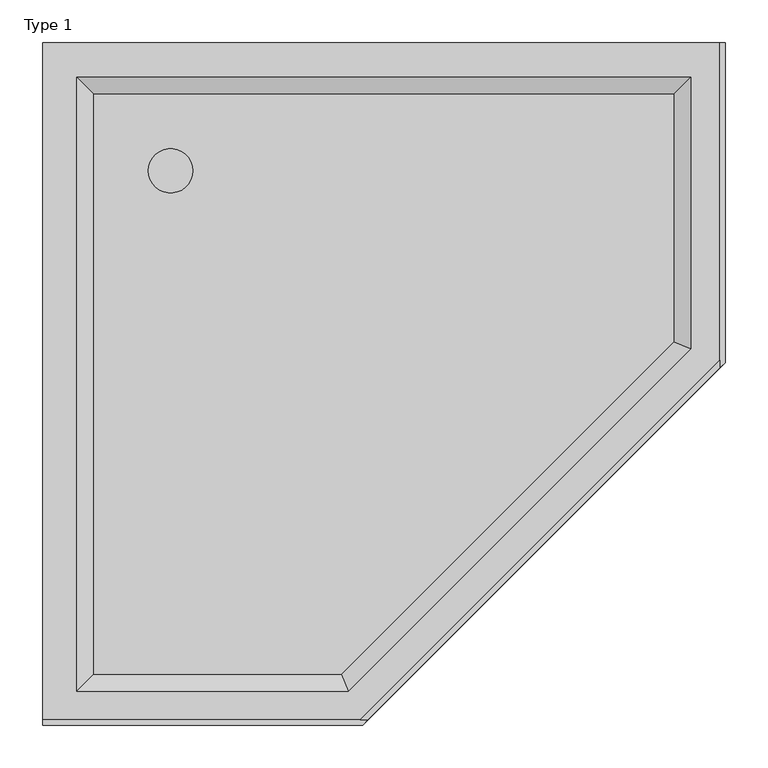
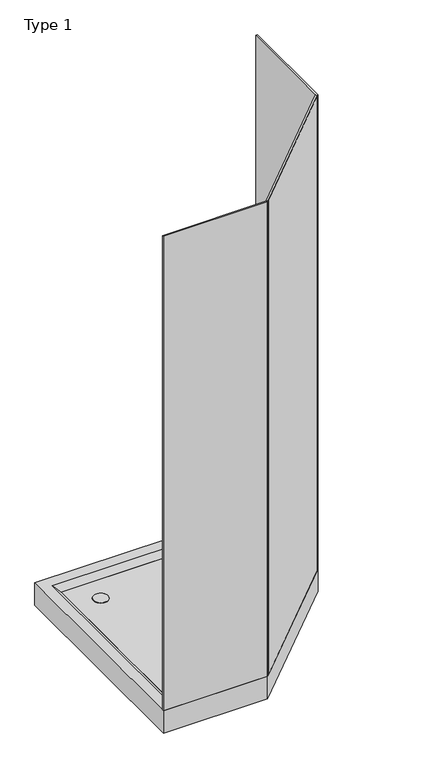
"""IFC4 building model written with IfcOpenShell, lengths in millimetres: sanitary terminal geometry, nbl_Shower_Pntngl-1.1 : Type 1."""

import ifcopenshell
import ifcopenshell.guid

model = None  # the IFC model being written
_history = None  # IfcOwnerHistory: only IFC2X3 demands one
_inside = {}  # id of a spatial element -> (the spatial element, [elements in it])
_under = {}  # id of a project, library or spatial element -> (it, [spatial elements below it])
_declared = {}  # id of a project -> (the project, [libraries it declares])
_typed = {}  # id of a type object -> (the type object, [elements of that type])
_made_of = {}  # id of a material, layer set ... -> (it, [elements and type objects made of it])


def new_model(schema):
    """Start an empty IFC model of exactly this schema.

    Asked for "IFC4X3", IfcOpenShell would pick the latest addendum, in which some entities
    have other attributes; the version numbers below select the first issue.
    IFC2X3 requires an IfcOwnerHistory on every rooted entity: one is made here for all.
    """
    global model, _history
    if schema == "IFC4X3":
        model = ifcopenshell.file(schema_version=(4, 3, 0, 0))
    else:
        model = ifcopenshell.file(schema=schema)
    _inside.clear()
    _under.clear()
    _declared.clear()
    _typed.clear()
    _made_of.clear()
    _history = None
    if model.schema == "IFC2X3":
        org = make("IfcOrganization", Name="unknown")
        user = make(
            "IfcPersonAndOrganization",
            ThePerson=make("IfcPerson", FamilyName="unknown"),
            TheOrganization=org,
        )
        app = make(
            "IfcApplication",
            ApplicationDeveloper=org,
            Version="unknown",
            ApplicationFullName="unknown",
            ApplicationIdentifier="unknown",
        )
        _history = make(
            "IfcOwnerHistory",
            OwningUser=user,
            OwningApplication=app,
            ChangeAction="ADDED",
            CreationDate=0,
        )
    return model


def make(cls, **values):
    """One entity of the class cls with the attributes given. An attribute that is None is left unset."""
    return model.create_entity(
        cls, **{name: value for name, value in values.items() if value is not None}
    )


def rooted(cls, **values):
    """An entity with a GlobalId (a new one), such as an element, a storey or a relation."""
    return make(cls, GlobalId=ifcopenshell.guid.new(), OwnerHistory=_history, **values)


def si_unit(unit_type, name, prefix=None):
    """IfcSIUnit, for example si_unit("LENGTHUNIT", "METRE", prefix="MILLI")."""
    return make("IfcSIUnit", UnitType=unit_type, Prefix=prefix, Name=name)


def assignment(units):
    """IfcUnitAssignment: the units of a project."""
    return None if units is None else make("IfcUnitAssignment", Units=units)


def point(xyz):
    """IfcCartesianPoint."""
    return None if xyz is None else make("IfcCartesianPoint", Coordinates=xyz)


def direction(xyz):
    """IfcDirection."""
    return None if xyz is None else make("IfcDirection", DirectionRatios=xyz)


def frame(location, z_axis=None, x_axis=None):
    """IfcAxis2Placement3D, a coordinate frame: its origin and axes. An axis left out is left unset."""
    return make(
        "IfcAxis2Placement3D",
        Location=point(location),
        Axis=direction(z_axis),
        RefDirection=direction(x_axis),
    )


def frame_2d(location, x_axis=None):
    """IfcAxis2Placement2D, a coordinate frame in the plane: its origin and x axis."""
    return make(
        "IfcAxis2Placement2D", Location=point(location), RefDirection=direction(x_axis)
    )


def origin():
    """The frame at (0, 0, 0) with its axes left unset."""
    return frame((0.0, 0.0, 0.0))


def place(relative_to, where):
    """IfcLocalPlacement: puts the frame where relative to a parent placement (None: the world)."""
    return make(
        "IfcLocalPlacement", PlacementRelTo=relative_to, RelativePlacement=where
    )


def context(
    kind, dimensions, precision=None, world=None, true_north=None, identifier=None
):
    """IfcGeometricRepresentationContext, for example the 3D "Model" context."""
    return make(
        "IfcGeometricRepresentationContext",
        ContextIdentifier=identifier,
        ContextType=kind,
        CoordinateSpaceDimension=dimensions,
        Precision=precision,
        WorldCoordinateSystem=world,
        TrueNorth=true_north,
    )


def project(units=None, contexts=None):
    """IfcProject with its units and contexts."""
    return rooted(
        "IfcProject",
        Name="project",
        RepresentationContexts=contexts,
        UnitsInContext=assignment(units),
    )


def spatial(cls, under=None, at=None, **own):
    """A site, building, storey or space (cls), placed at a placement, below another one or the project."""
    s = rooted(cls, ObjectPlacement=at, **own)
    if under is not None:
        _under.setdefault(under.id(), (under, []))[1].append(s)
    return s


def polyline(points):
    """IfcPolyline through the points."""
    return make("IfcPolyline", Points=[point(p) for p in points])


def circle_curve(where, radius):
    """IfcCircle in the frame where."""
    return make("IfcCircle", Position=where, Radius=radius)


def ellipse_curve(where, semi_axis1, semi_axis2):
    """IfcEllipse in the frame where."""
    return make(
        "IfcEllipse", Position=where, SemiAxis1=semi_axis1, SemiAxis2=semi_axis2
    )


def trimmed(basis, trim1, trim2, sense, master):
    """IfcTrimmedCurve: the piece of a basis curve between two trims."""
    return make(
        "IfcTrimmedCurve",
        BasisCurve=basis,
        Trim1=trim1,
        Trim2=trim2,
        SenseAgreement=sense,
        MasterRepresentation=master,
    )


def segment(curve, same_sense, transition):
    """IfcCompositeCurveSegment."""
    return make(
        "IfcCompositeCurveSegment",
        Transition=transition,
        SameSense=same_sense,
        ParentCurve=curve,
    )


def composite_curve(segments, self_intersect=None):
    """IfcCompositeCurve: segments joined end to end."""
    return make("IfcCompositeCurve", Segments=segments, SelfIntersect=self_intersect)


def outline(outer, holes=None, kind="AREA"):
    """IfcArbitraryClosedProfileDef: a profile drawn as a closed curve; with holes, ...WithVoids."""
    if holes is None:
        return make("IfcArbitraryClosedProfileDef", ProfileType=kind, OuterCurve=outer)
    return make(
        "IfcArbitraryProfileDefWithVoids",
        ProfileType=kind,
        OuterCurve=outer,
        InnerCurves=holes,
    )


def extrude(swept, where, along, depth):
    """IfcExtrudedAreaSolid: the profile swept, set in the frame where, extruded along a direction by depth."""
    return make(
        "IfcExtrudedAreaSolid",
        SweptArea=swept,
        Position=where,
        ExtrudedDirection=direction(along),
        Depth=depth,
    )


def shape(context_of_items, identifier, shape_type, items):
    """IfcShapeRepresentation: the items that make up one representation, for example the "Body"."""
    return make(
        "IfcShapeRepresentation",
        ContextOfItems=context_of_items,
        RepresentationIdentifier=identifier,
        RepresentationType=shape_type,
        Items=items,
    )


def source(mapping_origin, context_of_items, identifier, shape_type, items):
    """IfcRepresentationMap: a shape defined once, which mapped items show again and again."""
    return make(
        "IfcRepresentationMap",
        MappingOrigin=mapping_origin,
        MappedRepresentation=shape(context_of_items, identifier, shape_type, items),
    )


def transform(
    local_origin,
    x_axis=None,
    y_axis=None,
    z_axis=None,
    scale=None,
    scale2=None,
    scale3=None,
    uniform=True,
):
    """IfcCartesianTransformationOperator3D, or its non-uniform kind. x_axis, y_axis, z_axis: its Axis1, 2, 3."""
    if uniform:
        return make(
            "IfcCartesianTransformationOperator3D",
            Axis1=direction(x_axis),
            Axis2=direction(y_axis),
            LocalOrigin=point(local_origin),
            Scale=scale,
            Axis3=direction(z_axis),
        )
    return make(
        "IfcCartesianTransformationOperator3DnonUniform",
        Axis1=direction(x_axis),
        Axis2=direction(y_axis),
        LocalOrigin=point(local_origin),
        Scale=scale,
        Axis3=direction(z_axis),
        Scale2=scale2,
        Scale3=scale3,
    )


def mapped(mapping_source, mapping_target):
    """IfcMappedItem: shows the shape of a source again, moved by a transform."""
    return make(
        "IfcMappedItem", MappingSource=mapping_source, MappingTarget=mapping_target
    )


def made_of(thing, what):
    """Note that an element or type object is made of a material, layer set ...; save() writes the relation."""
    if what is not None:
        _made_of.setdefault(what.id(), (what, []))[1].append(thing)
    return thing


def element(
    cls,
    number,
    at=None,
    inside=None,
    cuts=None,
    type_object=None,
    material=None,
    context=None,
    identifier="Body",
    shape_type=None,
    held_by="IfcProductDefinitionShape",
    body=None,
    shapes=None,
    **own,
):
    """One element of the class cls, such as IfcWall. Its Tag is "e" and its number.

    at: its placement. inside: the storey or other place that contains it. cuts: it is an
    opening in that element (IfcRelVoidsElement). A single representation is given by context,
    identifier, shape_type and body (its items); several are given by shapes. held_by: the class
    of the entity that holds the representations. save() writes the other relations.
    """
    e = rooted(cls, Tag="e%d" % number, ObjectPlacement=at, **own)
    if body is not None:
        shapes = [shape(context, identifier, shape_type, body)]
    if shapes is not None:
        e.Representation = make(held_by, Representations=shapes)
    if inside is not None:
        _inside.setdefault(inside.id(), (inside, []))[1].append(e)
    if cuts is not None:
        rooted(
            "IfcRelVoidsElement", RelatingBuildingElement=cuts, RelatedOpeningElement=e
        )
    if type_object is not None:
        _typed.setdefault(type_object.id(), (type_object, []))[1].append(e)
    return made_of(e, material)


def aggregate(whole, parts):
    """IfcRelAggregates: a whole, such as a stair, and the parts it consists of."""
    return rooted("IfcRelAggregates", RelatingObject=whole, RelatedObjects=parts)


def save(model, path):
    """Write the relations noted so far, then the file.

    IfcRelAggregates (storeys below a building ...), IfcRelContainedInSpatialStructure (elements
    in a storey), IfcRelDefinesByType, IfcRelAssociatesMaterial and IfcRelDeclares: one each for
    every whole, place, type object, material and project.
    """
    for whole, parts in _under.values():
        aggregate(whole, parts)
    for where, things in _inside.values():
        rooted(
            "IfcRelContainedInSpatialStructure",
            RelatedElements=things,
            RelatingStructure=where,
        )
    for kind, things in _typed.values():
        rooted("IfcRelDefinesByType", RelatedObjects=things, RelatingType=kind)
    for what, things in _made_of.values():
        rooted("IfcRelAssociatesMaterial", RelatedObjects=things, RelatingMaterial=what)
    for by, libraries in _declared.values():
        rooted("IfcRelDeclares", RelatingContext=by, RelatedDefinitions=libraries)
    model.write(path)


def plane_surface(at):
    """IfcPlane: the flat surface through the origin of the frame at, square to its z axis."""
    return make("IfcPlane", Position=at)


def cylinder_surface(at, radius):
    """IfcCylindricalSurface: all points at the distance radius from the z axis of the frame at."""
    return make("IfcCylindricalSurface", Position=at, Radius=radius)


def revolved_surface(curve, axis_point, axis_direction):
    """IfcSurfaceOfRevolution: the curve turned about the line through axis_point along axis_direction."""
    return make(
        "IfcSurfaceOfRevolution",
        SweptCurve=make("IfcArbitraryOpenProfileDef", ProfileType="CURVE", Curve=curve),
        AxisPosition=make("IfcAxis1Placement", Location=point(axis_point), Axis=direction(axis_direction)),
    )


def advanced_brep(points, edges, surfaces, faces):
    """IfcAdvancedBrep: a solid bounded by faces that lie on surfaces and meet in shared edges.

    An edge is (start, end): straight between two places in points (the first is 0);
    or (start, end, curve); or (start, end, curve, False) where it runs against its curve.
    A face is (place in surfaces, loops), or (place, loops, False) where it looks against
    its surface's normal. A loop lists edges by number (the first is 1), with a minus sign
    where the edge is run from its end to its start. The first loop is the outer one.
    """
    corners = [point(p) for p in points]
    vertices = [make("IfcVertexPoint", VertexGeometry=c) for c in corners]
    made = []
    for start, end, *more in edges:
        made.append(
            make(
                "IfcEdgeCurve",
                EdgeStart=vertices[start],
                EdgeEnd=vertices[end],
                EdgeGeometry=more[0] if more else make("IfcPolyline", Points=[corners[start], corners[end]]),
                SameSense=more[1] if len(more) > 1 else True,
            )
        )
    hull = []
    for where, loops, *sense in faces:
        bounds = []
        for j, loop in enumerate(loops):
            ring = [make("IfcOrientedEdge", EdgeElement=made[abs(k) - 1], Orientation=k > 0) for k in loop]
            bounds.append(
                make(
                    "IfcFaceOuterBound" if j == 0 else "IfcFaceBound",
                    Bound=make("IfcEdgeLoop", EdgeList=ring),
                    Orientation=True,
                )
            )
        hull.append(make("IfcAdvancedFace", Bounds=bounds, FaceSurface=surfaces[where], SameSense=sense[0] if sense else True))
    return make("IfcAdvancedBrep", Outer=make("IfcClosedShell", CfsFaces=hull))


def type_1_79898fc5(model_context):
    return source(origin(), model_context, "Body", "SolidModel", [
        extrude(outline(composite_curve([segment(trimmed(circle_curve(frame_2d((-250.0, 250.0)), 26.0), [point((-224.0, 250.0))], [point((-276.0, 250.0))], False, "CARTESIAN"), True, "CONTINUOUS"), segment(trimmed(circle_curve(frame_2d((-250.0, 250.0)), 26.0), [point((-276.0, 250.0))], [point((-224.0, 250.0))], False, "CARTESIAN"), True, "CONTINUOUS")], self_intersect=False)), frame((0.0, 0.0, 64.0), z_axis=(0.0, 0.0, 1.0), x_axis=(1.0, 0.0, 0.0)), (0.0, 0.0, 1.0), 2.0),
        extrude(outline(polyline([(394.0, 19.0), (-19.0, -394.0), (-27.4852814, -394.0), (394.0, 27.4852814), (394.0, 19.0)])), frame((0.0, 0.0, 85.0), z_axis=(0.0, 0.0, 1.0), x_axis=(1.0, 0.0, 0.0)), (0.0, 0.0, 1.0), 1800.0),
        extrude(outline(polyline([(-340.0, 340.0), (340.0, 340.0), (340.0, 49.8528137), (-49.8528137, -340.0), (-340.0, -340.0), (-340.0, 340.0)]), holes=[composite_curve([segment(trimmed(circle_curve(frame_2d((-250.0, 250.0)), 26.0), [point((-224.0, 250.0))], [point((-276.0, 250.0))], True, "CARTESIAN"), True, "CONTINUOUS"), segment(trimmed(circle_curve(frame_2d((-250.0, 250.0)), 26.0), [point((-276.0, 250.0))], [point((-224.0, 250.0))], True, "CARTESIAN"), True, "CONTINUOUS")], self_intersect=False)]), frame((0.0, 0.0, 55.0), z_axis=(0.0, 0.0, 1.0), x_axis=(1.0, 0.0, 0.0)), (0.0, 0.0, 1.0), 10.0),
        extrude(outline(polyline([(400.0, 25.0), (394.0, 19.0), (394.0, 400.0), (400.0, 400.0), (400.0, 25.0)])), frame((0.0, 0.0, 85.0), z_axis=(0.0, 0.0, 1.0), x_axis=(1.0, 0.0, 0.0)), (0.0, 0.0, 1.0), 1800.0),
        extrude(outline(polyline([(-19.0, -394.0), (-25.0, -400.0), (-400.0, -400.0), (-400.0, -394.0), (-19.0, -394.0)])), frame((0.0, 0.0, 85.0), z_axis=(0.0, 0.0, 1.0), x_axis=(1.0, 0.0, 0.0)), (0.0, 0.0, 1.0), 1800.0),
        advanced_brep(
        [(400.0, 400.0, 0.0), (400.0, 400.0, 85.0), (400.0, 25.0, 85.0), (400.0, 25.0, 0.0), (340.0, 340.0, 65.0), (340.0, 340.0, 0.0), (340.0, 49.8528137, 0.0), (340.0, 49.8528137, 65.0), (-25.0, -400.0, 0.0), (-25.0, -400.0, 85.0), (-400.0, -400.0, 85.0), (-400.0, -400.0, 0.0), (-49.8528137, -340.0, 65.0), (-49.8528137, -340.0, 0.0), (-340.0, -340.0, 0.0), (-340.0, -340.0, 65.0), (-400.0, 400.0, 85.0), (-400.0, 400.0, 0.0), (-340.0, 340.0, 0.0), (-340.0, 340.0, 65.0), (390.0, 390.0, 73.0371147), (390.0, 390.0, 0.0), (390.0, 29.1421356, 0.0), (390.0, 29.1421356, 73.0371147), (350.0, 350.0, 0.0), (350.0, 350.0, 58.1954665), (350.0, 45.7106781, 58.1954665), (350.0, 45.7106781, 0.0), (-29.1421356, -390.0, 73.0371147), (-29.1421356, -390.0, 0.0), (-390.0, -390.0, 0.0), (-390.0, -390.0, 73.0371147), (-45.7106781, -350.0, 0.0), (-45.7106781, -350.0, 58.1954665), (-350.0, -350.0, 58.1954665), (-350.0, -350.0, 0.0), (-390.0, 390.0, 0.0), (-390.0, 390.0, 73.0371147), (-350.0, 350.0, 58.1954665), (-350.0, 350.0, 0.0), (365.0904931, 365.0904931, 73.0371147), (365.0904931, 39.4599912, 73.0371147), (360.0, 360.0, 85.0), (360.0, 41.5685425, 85.0), (-39.4599912, -365.0904931, 73.0371147), (-365.0904931, -365.0904931, 73.0371147), (-41.5685425, -360.0, 85.0), (-360.0, -360.0, 85.0), (-365.0904931, 365.0904931, 73.0371147), (-360.0, 360.0, 85.0)],
        [
            (0, 1),
            (1, 2),
            (2, 3),
            (3, 0),
            (4, 5),
            (5, 6),
            (6, 7),
            (7, 4),
            (8, 9),
            (9, 10),
            (10, 11),
            (11, 8),
            (12, 13),
            (13, 14),
            (14, 15),
            (15, 12),
            (10, 16),
            (16, 17),
            (17, 11),
            (14, 18),
            (18, 19),
            (19, 15),
            (16, 1),
            (0, 17),
            (18, 5),
            (4, 19),
            (20, 21),
            (21, 22),
            (22, 23),
            (23, 20),
            (24, 25),
            (25, 26),
            (26, 27),
            (27, 24),
            (28, 29),
            (29, 30),
            (30, 31),
            (31, 28),
            (32, 33),
            (33, 34),
            (34, 35),
            (35, 32),
            (30, 36),
            (36, 37),
            (37, 31),
            (34, 38),
            (38, 39),
            (39, 35),
            (36, 21),
            (20, 37),
            (38, 25),
            (24, 39),
            (25, 40, ellipse_curve(frame((247.8953326, 247.8953326, 177.1046674), z_axis=(0.7071067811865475, -0.7071067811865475, 0.0), x_axis=(0.7071067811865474, 0.7071067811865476, 0.0)), 221.6518042, 156.7314938)),
            (40, 41),
            (41, 26, ellipse_curve(frame((247.8953326, 88.0038161, 177.1046674), z_axis=(0.38268343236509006, 0.9238795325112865, 0.0), x_axis=(-0.9238795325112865, 0.3826834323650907, 0.0)), 169.6449464, 156.7314938)),
            (42, 4, ellipse_curve(frame((247.8953326, 247.8953326, 177.1046674), z_axis=(-0.7071067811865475, 0.7071067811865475, 0.0), x_axis=(-0.7071067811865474, -0.7071067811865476, 0.0)), 205.1863845, 145.0886839)),
            (7, 43, ellipse_curve(frame((247.8953326, 88.0038161, 177.1046674), z_axis=(-0.38268343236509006, -0.9238795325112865, 0.0), x_axis=(0.9238795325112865, -0.3826834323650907, 0.0)), 157.0428598, 145.0886839)),
            (43, 42),
            (33, 44, ellipse_curve(frame((-88.0038161, -247.8953326, 177.1046674), z_axis=(-0.9238795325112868, -0.3826834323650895, 0.0), x_axis=(0.38268343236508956, -0.9238795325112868, 0.0)), 169.6449464, 156.7314938)),
            (44, 45),
            (45, 34, ellipse_curve(frame((-247.8953326, -247.8953326, 177.1046674), z_axis=(0.7071067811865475, -0.7071067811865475, 0.0), x_axis=(0.7071067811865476, 0.7071067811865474, 0.0)), 221.6518042, 156.7314938)),
            (46, 12, ellipse_curve(frame((-88.0038161, -247.8953326, 177.1046674), z_axis=(0.9238795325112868, 0.3826834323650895, 0.0), x_axis=(-0.38268343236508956, 0.9238795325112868, 0.0)), 157.0428598, 145.0886839)),
            (15, 47, ellipse_curve(frame((-247.8953326, -247.8953326, 177.1046674), z_axis=(-0.7071067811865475, 0.7071067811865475, 0.0), x_axis=(-0.7071067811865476, -0.7071067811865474, 0.0)), 205.1863845, 145.0886839)),
            (47, 46),
            (45, 48),
            (48, 38, ellipse_curve(frame((-247.8953326, 247.8953326, 177.1046674), z_axis=(-0.7071067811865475, -0.7071067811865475, 0.0), x_axis=(0.7071067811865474, -0.7071067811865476, 0.0)), 221.6518042, 156.7314938)),
            (19, 49, ellipse_curve(frame((-247.8953326, 247.8953326, 177.1046674), z_axis=(0.7071067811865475, 0.7071067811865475, 0.0), x_axis=(-0.7071067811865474, 0.7071067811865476, 0.0)), 205.1863845, 145.0886839)),
            (49, 47),
            (48, 40),
            (42, 49),
            (2, 9),
            (8, 3),
            (29, 22),
            (28, 23),
            (44, 41),
            (33, 26),
            (32, 27),
            (13, 6),
            (12, 7),
            (46, 43),
        ],
        [
            plane_surface(frame((400.0, 400.0, 85.0), z_axis=(1.0, 0.0, 0.0), x_axis=(0.0, -1.0, 0.0))),
            plane_surface(frame((340.0, 340.0, 0.0), z_axis=(-1.0, 0.0, 0.0), x_axis=(0.0, -1.0, 0.0))),
            plane_surface(frame((-25.0, -400.0, 85.0), z_axis=(0.0, -1.0, 0.0), x_axis=(-1.0, 0.0, 0.0))),
            plane_surface(frame((-49.8528137, -340.0, 0.0), z_axis=(0.0, 1.0, 0.0), x_axis=(-1.0, 0.0, 0.0))),
            plane_surface(frame((-400.0, -400.0, 85.0), z_axis=(-1.0, 0.0, 0.0), x_axis=(0.0, 1.0, 0.0))),
            plane_surface(frame((-340.0, -340.0, 0.0), z_axis=(1.0, 0.0, 0.0), x_axis=(0.0, 1.0, 0.0))),
            plane_surface(frame((-400.0, 400.0, 85.0), z_axis=(0.0, 1.0, 0.0), x_axis=(1.0, 0.0, 0.0))),
            plane_surface(frame((-340.0, 340.0, 0.0), z_axis=(0.0, -1.0, 0.0), x_axis=(1.0, 0.0, 0.0))),
            plane_surface(frame((390.0, 390.0, 0.0), z_axis=(-1.0, 0.0, 0.0), x_axis=(0.0, -1.0, 0.0))),
            plane_surface(frame((350.0, 350.0, 58.1954665), z_axis=(1.0, 0.0, 0.0), x_axis=(0.0, -1.0, 0.0))),
            plane_surface(frame((-29.1421356, -390.0, 0.0), z_axis=(0.0, 1.0, 0.0), x_axis=(-1.0, 0.0, 0.0))),
            plane_surface(frame((-45.7106781, -350.0, 58.1954665), z_axis=(0.0, -1.0, 0.0), x_axis=(-1.0, 0.0, 0.0))),
            plane_surface(frame((-390.0, -390.0, 0.0), z_axis=(1.0, 0.0, 0.0), x_axis=(0.0, 1.0, 0.0))),
            plane_surface(frame((-350.0, -350.0, 58.1954665), z_axis=(-1.0, 0.0, 0.0), x_axis=(0.0, 1.0, 0.0))),
            plane_surface(frame((-390.0, 390.0, 0.0), z_axis=(0.0, -1.0, 0.0), x_axis=(1.0, 0.0, 0.0))),
            plane_surface(frame((-350.0, 350.0, 58.1954665), z_axis=(0.0, 1.0, 0.0), x_axis=(1.0, 0.0, 0.0))),
            cylinder_surface(frame((247.8953326, 400.0, 177.1046674), z_axis=(0.0, 1.0, 0.0), x_axis=(1.0, 0.0, 0.0)), 156.7314938),
            revolved_surface(polyline([(392.9840165, 27.90611548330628, 177.1046674), (392.9840165, 392.98401648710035, 177.1046674)]), (247.8953326, 400.0, 177.1046674), (0.0, -1.0, 0.0)),
            cylinder_surface(frame((-25.0, -247.8953326, 177.1046674), z_axis=(1.0, 0.0, 0.0), x_axis=(0.0, -1.0, 0.0)), 156.7314938),
            revolved_surface(polyline([(-392.98401648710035, -392.9840165, 177.1046674), (-27.90611548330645, -392.9840165, 177.1046674)]), (-25.0, -247.8953326, 177.1046674), (-1.0, 0.0, 0.0)),
            cylinder_surface(frame((-247.8953326, -400.0, 177.1046674), z_axis=(0.0, -1.0, 0.0), x_axis=(-1.0, 0.0, 0.0)), 156.7314938),
            revolved_surface(polyline([(-392.9840165, 392.98401648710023, 177.1046674), (-392.9840165, -392.98401648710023, 177.1046674)]), (-247.8953326, -400.0, 177.1046674), (0.0, 1.0, 0.0)),
            cylinder_surface(frame((-400.0, 247.8953326, 177.1046674), z_axis=(-1.0, 0.0, 0.0), x_axis=(0.0, 1.0, 0.0)), 156.7314938),
            revolved_surface(polyline([(392.98401648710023, 392.9840165, 177.1046674), (-392.98401648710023, 392.9840165, 177.1046674)]), (-400.0, 247.8953326, 177.1046674), (1.0, 0.0, 0.0)),
            plane_surface(frame((400.0, 25.0, 85.0), z_axis=(0.7071067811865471, -0.707106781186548, 0.0), x_axis=(-0.707106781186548, -0.7071067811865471, 0.0))),
            plane_surface(frame((400.0, 25.0, 0.0), z_axis=(0.0, 0.0, -1.0), x_axis=(-0.707106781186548, -0.7071067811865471, 0.0))),
            plane_surface(frame((390.0, 29.1421356, 0.0), z_axis=(-0.7071067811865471, 0.707106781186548, 0.0), x_axis=(-0.707106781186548, -0.7071067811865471, 0.0))),
            plane_surface(frame((390.0, 29.1421356, 73.0371147), z_axis=(0.0, 0.0, -1.0), x_axis=(-0.707106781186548, -0.7071067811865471, 0.0))),
            cylinder_surface(frame((292.4457583, 132.5542417, 177.1046674), z_axis=(0.707106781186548, 0.7071067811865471, 0.0), x_axis=(0.7071067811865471, -0.707106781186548, 0.0)), 156.7314938),
            plane_surface(frame((350.0, 45.7106781, 58.1954665), z_axis=(0.7071067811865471, -0.707106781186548, 0.0), x_axis=(-0.707106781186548, -0.7071067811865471, 0.0))),
            plane_surface(frame((350.0, 45.7106781, 0.0), z_axis=(0.0, 0.0, -1.0), x_axis=(-0.707106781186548, -0.7071067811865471, 0.0))),
            plane_surface(frame((340.0, 49.8528137, 0.0), z_axis=(-0.707106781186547, 0.707106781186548, 0.0), x_axis=(-0.707106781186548, -0.707106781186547, 0.0))),
            revolved_surface(polyline([(-27.906115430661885, -392.98401654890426, 177.1046674), (392.9840165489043, 27.9061154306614, 177.1046674)]), (292.4457583, 132.5542417, 177.1046674), (-0.707106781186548, -0.7071067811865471, 0.0)),
            plane_surface(frame((360.0, 41.5685425, 85.0), z_axis=(0.0, 0.0, 1.0), x_axis=(-0.7071067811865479, -0.7071067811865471, 0.0))),
        ],
        [
            (0, [[1, 2, 3, 4]]),
            (1, [[5, 6, 7, 8]]),
            (2, [[9, 10, 11, 12]]),
            (3, [[13, 14, 15, 16]]),
            (4, [[-11, 17, 18, 19]]),
            (5, [[-15, 20, 21, 22]]),
            (6, [[-18, 23, -1, 24]]),
            (7, [[-21, 25, -5, 26]]),
            (8, [[27, 28, 29, 30]]),
            (9, [[31, 32, 33, 34]]),
            (10, [[35, 36, 37, 38]]),
            (11, [[39, 40, 41, 42]]),
            (12, [[-37, 43, 44, 45]]),
            (13, [[-41, 46, 47, 48]]),
            (14, [[-44, 49, -27, 50]]),
            (15, [[-47, 51, -31, 52]]),
            (16, [[53, 54, 55, -32]]),
            (17, [[56, -8, 57, 58]]),
            (18, [[59, 60, 61, -40]]),
            (19, [[62, -16, 63, 64]]),
            (20, [[-61, 65, 66, -46]]),
            (21, [[-63, -22, 67, 68]]),
            (22, [[-66, 69, -53, -51]]),
            (23, [[-67, -26, -56, 70]]),
            (24, [[-3, 71, -9, 72]]),
            (25, [[-19, -24, -4, -72, -12], [73, -28, -49, -43, -36]]),
            (26, [[-29, -73, -35, 74]]),
            (27, [[-45, -50, -30, -74, -38], [75, -54, -69, -65, -60]]),
            (28, [[-55, -75, -59, 76]]),
            (29, [[-33, -76, -39, 77]]),
            (30, [[-48, -52, -34, -77, -42], [78, -6, -25, -20, -14]]),
            (31, [[-7, -78, -13, 79]]),
            (32, [[-57, -79, -62, 80]]),
            (33, [[-71, -2, -23, -17, -10], [-68, -70, -58, -80, -64]]),
        ],
    ),
    ])


if __name__ == "__main__":
    model = new_model("IFC4")
    model_context = context("Model", 3, world=origin())
    ifc_project = project(units=[si_unit("LENGTHUNIT", "METRE", prefix="MILLI")], contexts=[model_context])
    site = spatial("IfcSite", under=ifc_project)
    building = spatial("IfcBuilding", under=site)
    placement = place(None, origin())
    type_1_shape = type_1_79898fc5(model_context)
    element("IfcSanitaryTerminal", 1, ObjectType="nbl_Shower_Pntngl-1.1 : Type 1", at=placement, inside=building, context=model_context, shape_type="MappedRepresentation", body=[
        mapped(type_1_shape, transform((0.0, 0.0, 0.0), x_axis=(1.0, 0.0, 0.0), y_axis=(0.0, 1.0, 0.0), z_axis=(0.0, 0.0, 1.0))),
    ])
    save(model, "model.ifc")
